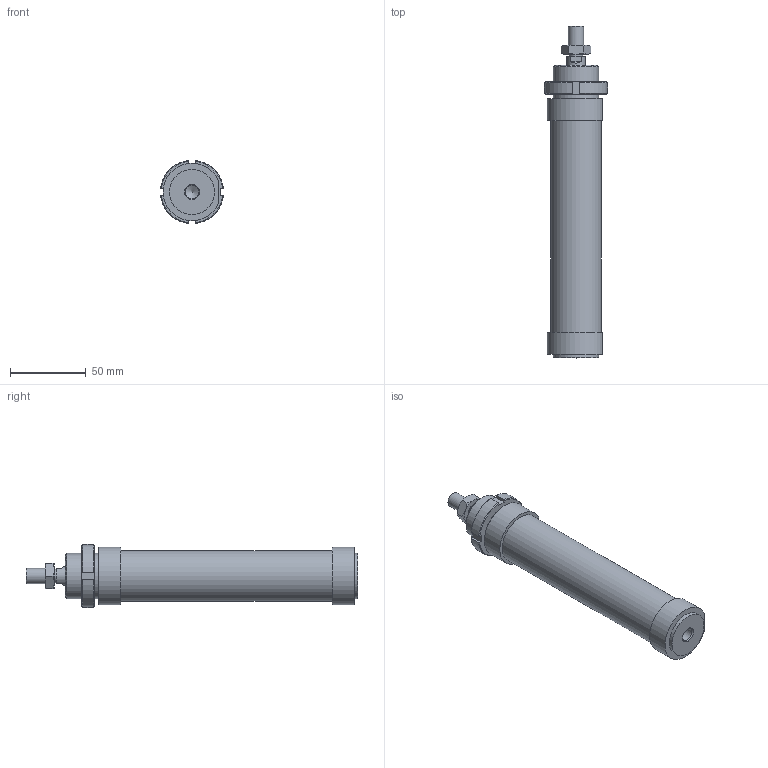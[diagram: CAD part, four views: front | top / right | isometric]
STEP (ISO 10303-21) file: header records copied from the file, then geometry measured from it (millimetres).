
FILE_DESCRIPTION((''),'2;1');
FILE_NAME('I:\Area Tecnica\Disegni\VARIE-3D\Componenti\1280\1281_##_####_#\1281_32_0100.iam.stp','2009-06-04T09:41:06',(''),(''),'Autodesk Inventor 2010','Autodesk Inventor 2010','');
FILE_SCHEMA(('AUTOMOTIVE_DESIGN { 1 0 10303 214 1 1 1 1 }'));
Length unit declared in the file: millimetre
Products named in the file (5): 1281_32_0100; C1281_32_100; S1280_32_100; 1200_32_05; 1200_32_06
Assembly tree (4 placements, depth 2):
  1281_32_0100
    C1281_32_100
    S1280_32_100
    1200_32_05
    1200_32_06
Bounding box: 41.7 x 219.5 x 41.7 mm (x, y, z)
Volume: 180948.2 mm3; surface area: 39364.2 mm2
Topology: 4 solids, 4 shells, 88 faces, 195 edges, 124 vertices
Faces by surface type: plane 39, cone 22, bspline 14, cylinder 13
Full cylindrical faces by diameter (mm): 8.8 x1, 10 x1, 12 x2, 30 x2, 33.6 x1
Entity records: 2663 total; most frequent: CARTESIAN_POINT 675, DIRECTION 362, ORIENTED_EDGE 338, EDGE_CURVE 169, AXIS2_PLACEMENT_3D 150, EDGE_LOOP 122, VERTEX_POINT 119, STYLED_ITEM 92
